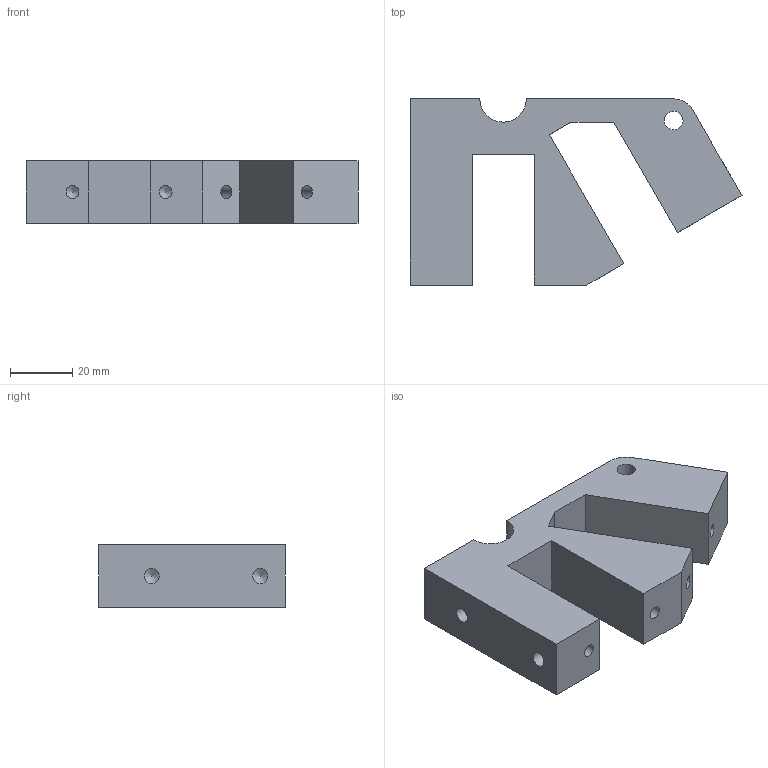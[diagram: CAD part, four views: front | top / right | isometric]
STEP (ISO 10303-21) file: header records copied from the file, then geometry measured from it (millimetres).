
FILE_DESCRIPTION(/* description */ ('POSITION 2'),/* implementation_level */ '2;1');
FILE_NAME(/* name */ 'C:\Users\Apardo\Documents\Proyectos\Dietrich\Proyecto 1\PLATE ROLLING MACHINE\STEP\1.6 position 2.stp',/* time_stamp */ '2020-11-03T20:37:27-04:00',/* author */ ('Apardo'),/* organization */ ('10'),/* preprocessor_version */ 'ST-DEVELOPER v18',/* originating_system */ 'Autodesk Inventor 2020',/* authorisation */ '');
FILE_SCHEMA (('AUTOMOTIVE_DESIGN { 1 0 10303 214 3 1 1 }'));
Length unit declared in the file: millimetre
Products named in the file (1): position 2
Bounding box: 107.01 x 60 x 20 mm (x, y, z)
Volume: 69210.4 mm3; surface area: 18501.9 mm2
Topology: 1 solids, 1 shells, 36 faces, 111 edges, 77 vertices
Faces by surface type: plane 17, cylinder 11, cone 8
Full cylindrical faces by diameter (mm): 4.134 x4, 4.917 x4, 6.02 x1
Entity records: 1271 total; most frequent: CARTESIAN_POINT 217, DIRECTION 216, ORIENTED_EDGE 206, EDGE_CURVE 103, VERTEX_POINT 77, AXIS2_PLACEMENT_3D 76, LINE 64, VECTOR 64
